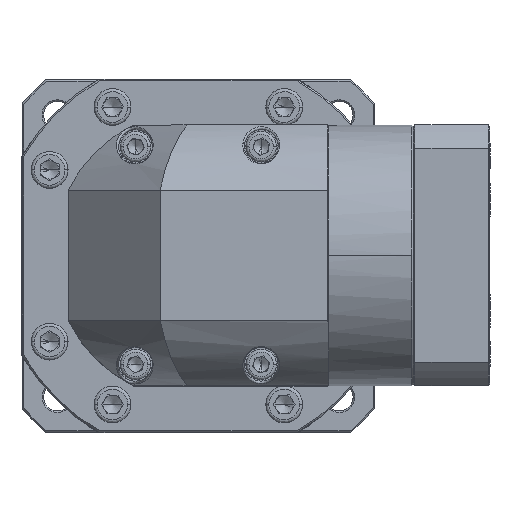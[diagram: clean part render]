
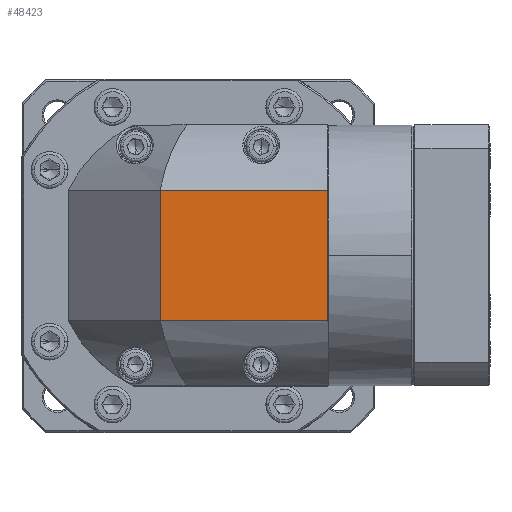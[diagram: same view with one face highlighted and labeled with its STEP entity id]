
A CAD part, top view. The second image highlights one B-rep face of the part: STEP entity #48423.
In plain terms, the highlighted planar face has unit normal (0, 0, 1).
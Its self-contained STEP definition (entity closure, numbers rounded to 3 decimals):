
#4305 = EDGE_CURVE ( 'NONE', #41950, #60280, #72715, .T. ) ;
#6970 = ORIENTED_EDGE ( 'NONE', *, *, #4305, .F. ) ;
#10040 = ORIENTED_EDGE ( 'NONE', *, *, #40821, .T. ) ;
#12124 = CARTESIAN_POINT ( 'NONE',  ( 101.443, 93.972, 59.177 ) ) ;
#12210 = CARTESIAN_POINT ( 'NONE',  ( 101.443, 115.185, 59.177 ) ) ;
#12229 = CARTESIAN_POINT ( 'NONE',  ( 46.943, 72.759, 59.177 ) ) ;
#25624 = DIRECTION ( 'NONE',  ( 0., 1., 0. ) ) ;
#27502 = PLANE ( 'NONE',  #86296 ) ;
#28012 = DIRECTION ( 'NONE',  ( 1., 0., 0. ) ) ;
#28439 = VECTOR ( 'NONE', #25624, 1000. ) ;
#40821 = EDGE_CURVE ( 'NONE', #41950, #50054, #58737, .T. ) ;
#41950 = VERTEX_POINT ( 'NONE', #139537 ) ;
#44666 = CARTESIAN_POINT ( 'NONE',  ( 1.443, 115.185, 59.177 ) ) ;
#45016 = CARTESIAN_POINT ( 'NONE',  ( 46.943, 93.972, 59.177 ) ) ;
#48423 = ADVANCED_FACE ( 'NONE', ( #59161 ), #27502, .T. ) ;
#50054 = VERTEX_POINT ( 'NONE', #12210 ) ;
#52405 = EDGE_CURVE ( 'NONE', #60280, #122183, #147406, .T. ) ;
#54328 = ORIENTED_EDGE ( 'NONE', *, *, #88884, .F. ) ;
#57434 = DIRECTION ( 'NONE',  ( -1., 0., 0. ) ) ;
#58737 = LINE ( 'NONE', #12124, #28439 ) ;
#59161 = FACE_OUTER_BOUND ( 'NONE', #60694, .T. ) ;
#60280 = VERTEX_POINT ( 'NONE', #12229 ) ;
#60694 = EDGE_LOOP ( 'NONE', ( #54328, #124664, #6970, #10040 ) ) ;
#66913 = DIRECTION ( 'NONE',  ( 0., 1., 0. ) ) ;
#72715 = LINE ( 'NONE', #93292, #78013 ) ;
#78013 = VECTOR ( 'NONE', #57434, 1000. ) ;
#86296 = AXIS2_PLACEMENT_3D ( 'NONE', #107272, #96246, #28012 ) ;
#88884 = EDGE_CURVE ( 'NONE', #122183, #50054, #112149, .T. ) ;
#93292 = CARTESIAN_POINT ( 'NONE',  ( 1.443, 72.759, 59.177 ) ) ;
#93823 = CARTESIAN_POINT ( 'NONE',  ( 46.943, 115.185, 59.177 ) ) ;
#96246 = DIRECTION ( 'NONE',  ( 0., 0., 1. ) ) ;
#106691 = VECTOR ( 'NONE', #124439, 1000. ) ;
#107272 = CARTESIAN_POINT ( 'NONE',  ( 59.443, 93.972, 59.177 ) ) ;
#112149 = LINE ( 'NONE', #44666, #106691 ) ;
#113424 = VECTOR ( 'NONE', #66913, 1000. ) ;
#122183 = VERTEX_POINT ( 'NONE', #93823 ) ;
#124439 = DIRECTION ( 'NONE',  ( 1., 0., 0. ) ) ;
#124664 = ORIENTED_EDGE ( 'NONE', *, *, #52405, .F. ) ;
#139537 = CARTESIAN_POINT ( 'NONE',  ( 101.443, 72.759, 59.177 ) ) ;
#147406 = LINE ( 'NONE', #45016, #113424 ) ;
